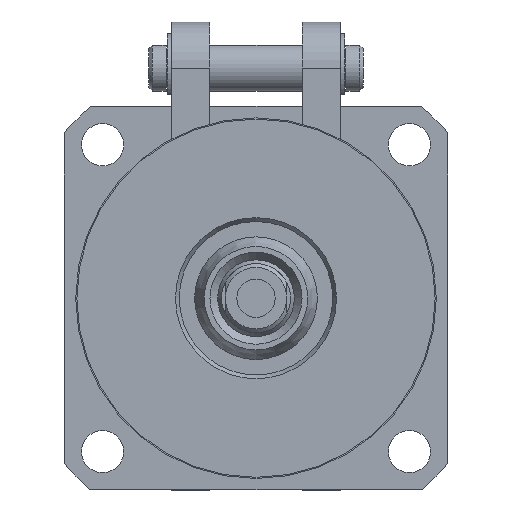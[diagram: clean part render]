
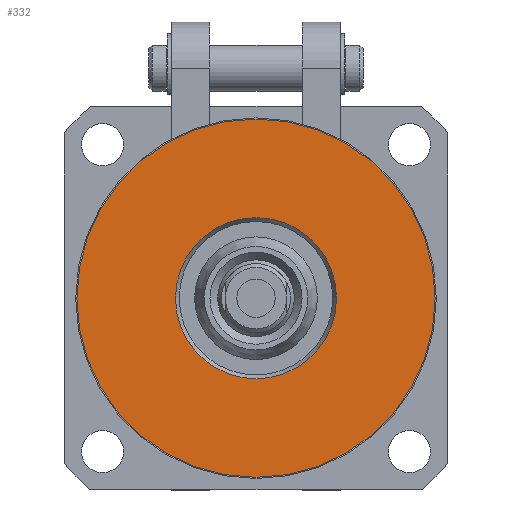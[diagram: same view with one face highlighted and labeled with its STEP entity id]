
A CAD part, front view. The second image highlights one B-rep face of the part: STEP entity #332.
In plain terms, the highlighted planar face has unit normal (0, -1, 0).
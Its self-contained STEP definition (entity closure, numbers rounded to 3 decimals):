
#332 = ADVANCED_FACE( '', ( #708, #709 ), #710, .T. );
#708 = FACE_OUTER_BOUND( '', #1383, .T. );
#709 = FACE_BOUND( '', #1384, .T. );
#710 = PLANE( '', #1385 );
#1383 = EDGE_LOOP( '', ( #2350 ) );
#1384 = EDGE_LOOP( '', ( #2351 ) );
#1385 = AXIS2_PLACEMENT_3D( '', #2352, #2353, #2354 );
#2350 = ORIENTED_EDGE( '', *, *, #4188, .T. );
#2351 = ORIENTED_EDGE( '', *, *, #4189, .F. );
#2352 = CARTESIAN_POINT( '', ( 0., -47.5, 0. ) );
#2353 = DIRECTION( '', ( 0., -1., 0. ) );
#2354 = DIRECTION( '', ( 1., 0., 0. ) );
#4188 = EDGE_CURVE( '', #4968, #4968, #4969, .T. );
#4189 = EDGE_CURVE( '', #4970, #4970, #4971, .T. );
#4968 = VERTEX_POINT( '', #6227 );
#4969 = CIRCLE( '', #6228, 23.35 );
#4970 = VERTEX_POINT( '', #6229 );
#4971 = CIRCLE( '', #6230, 10.5 );
#6227 = CARTESIAN_POINT( '', ( -23.35, -47.5, 0. ) );
#6228 = AXIS2_PLACEMENT_3D( '', #7582, #7583, #7584 );
#6229 = CARTESIAN_POINT( '', ( 0., -47.5, 10.5 ) );
#6230 = AXIS2_PLACEMENT_3D( '', #7585, #7586, #7587 );
#7582 = CARTESIAN_POINT( '', ( 0., -47.5, 0. ) );
#7583 = DIRECTION( '', ( 0., -1., 0. ) );
#7584 = DIRECTION( '', ( -1., 0., 0. ) );
#7585 = CARTESIAN_POINT( '', ( 0., -47.5, 0. ) );
#7586 = DIRECTION( '', ( 0., -1., 0. ) );
#7587 = DIRECTION( '', ( 0., 0., 1. ) );
